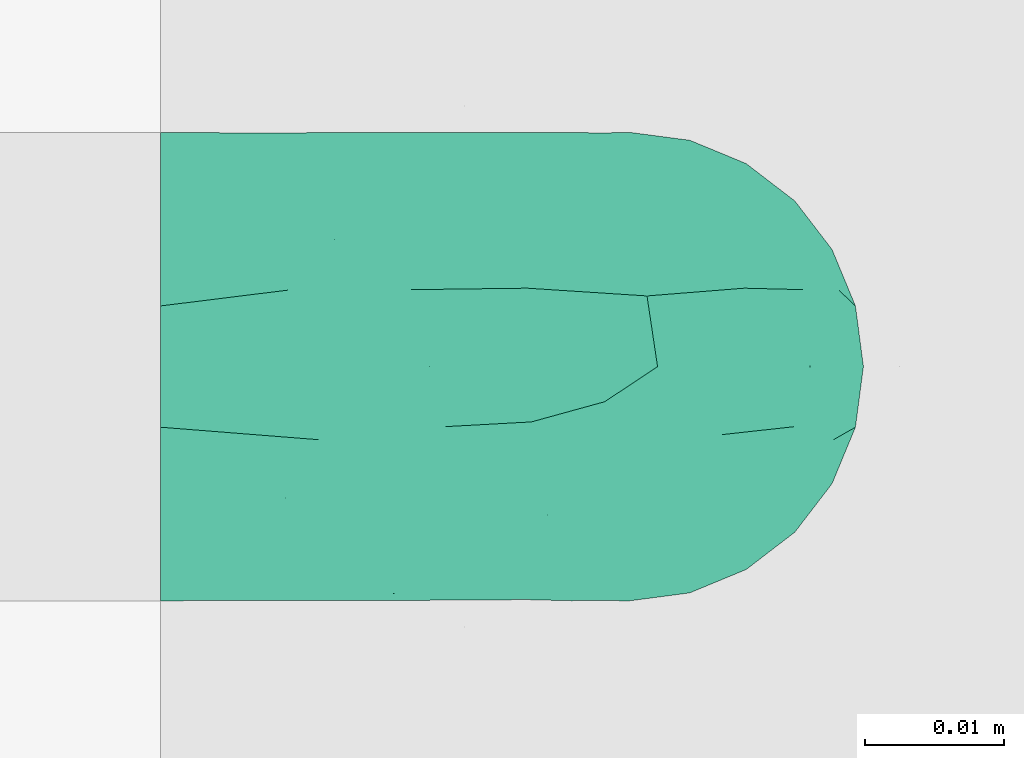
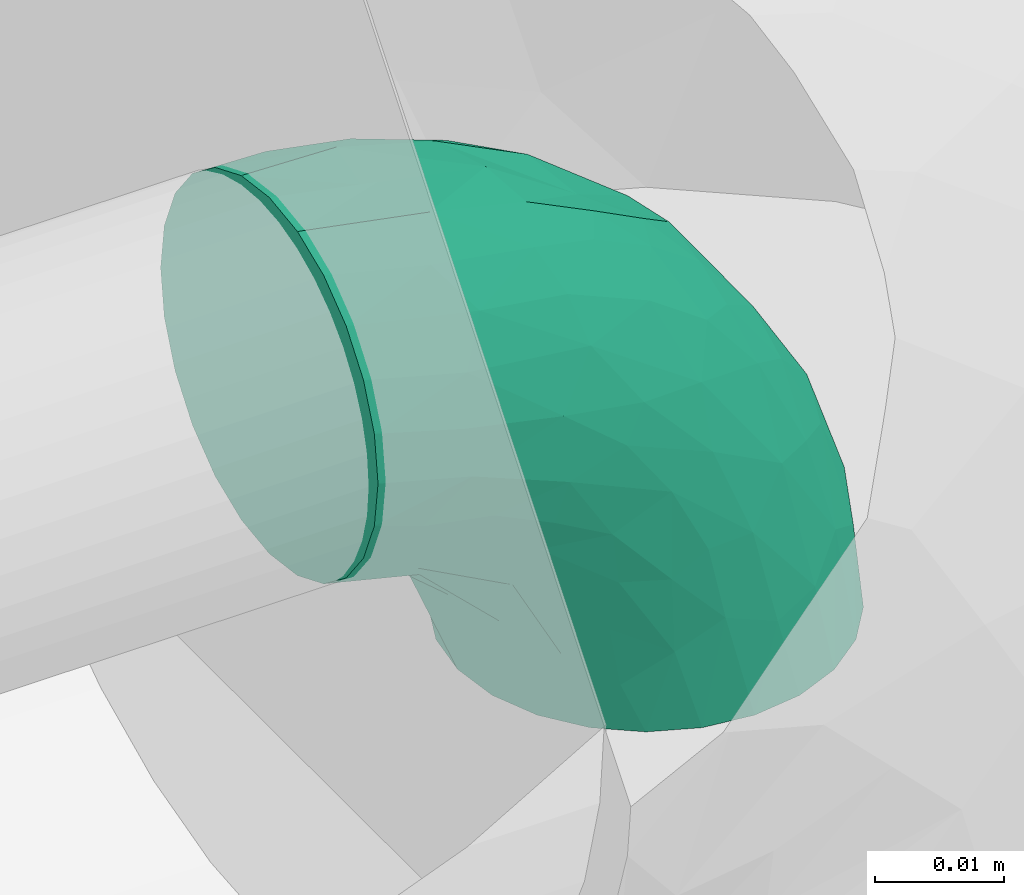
# One storey, part 3 of 4: 1 flow fitting.
"""IFC2X3 building model written with IfcOpenShell, lengths in millimetres."""

from ifc_helpers import new_model, entity, si_unit, converted_unit, derived_unit, direction, frame, origin_with_axes, place, context, subcontext, project, spatial, open_shell, surface_model, source, transform, mapped, type_object, element, save


model = new_model("IFC2X3")

# Units and contexts
model_context = context("Model", 3, precision=0.01, world=frame((0.0, 4.29681676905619e-09, 0.0)), true_north=direction((4.01073788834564e-13, 1.0)))
plan_context = context("Plan", 3, precision=0.01, world=frame((0.0, 4.29681676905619e-09, 0.0)), true_north=direction((4.01073788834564e-13, 1.0)))
body_context = subcontext(model_context, "Body", "Model", "MODEL_VIEW")
ifc_project = project(units=[converted_unit("PLANEANGLEUNIT", "DEGREE", entity("IfcPositiveLengthMeasure", 0.0174532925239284), si_unit("PLANEANGLEUNIT", "RADIAN"), dimensions=[0, 0, 0, 0, 0, 0, 0]), si_unit("AREAUNIT", "SQUARE_METRE"), si_unit("LENGTHUNIT", "METRE", prefix="MILLI"), si_unit("MASSUNIT", "GRAM", prefix="KILO"), si_unit("POWERUNIT", "WATT"), si_unit("PRESSUREUNIT", "PASCAL"), si_unit("FORCEUNIT", "NEWTON", prefix="KILO"), si_unit("ELECTRICVOLTAGEUNIT", "VOLT"), si_unit("ELECTRICCURRENTUNIT", "AMPERE"), si_unit("THERMODYNAMICTEMPERATUREUNIT", "DEGREE_CELSIUS"), si_unit("TIMEUNIT", "SECOND"), si_unit("VOLUMEUNIT", "CUBIC_METRE"), derived_unit("LINEARVELOCITYUNIT", [(si_unit("LENGTHUNIT", "METRE"), 1), (si_unit("TIMEUNIT", "SECOND"), -1)]), derived_unit("VOLUMETRICFLOWRATEUNIT", [(si_unit("VOLUMEUNIT", "CUBIC_METRE"), 1), (si_unit("TIMEUNIT", "SECOND"), -1)]), derived_unit("THERMALTRANSMITTANCEUNIT", [(si_unit("POWERUNIT", "WATT"), 1), (si_unit("THERMODYNAMICTEMPERATUREUNIT", "KELVIN"), -1), (si_unit("AREAUNIT", "SQUARE_METRE"), -1)]), derived_unit("SOUNDPRESSUREUNIT", [(si_unit("PRESSUREUNIT", "PASCAL"), 1)])], contexts=[model_context, plan_context])

# Site, building, storey
site_placement = place(None, frame((0.0, -4.29681676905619e-09, 0.0), z_axis=(0.0, 0.0, 1.0), x_axis=(1.0, 0.0, 0.0)))
site = spatial("IfcSite", under=ifc_project, at=site_placement, Name="ENGM", CompositionType="ELEMENT")
building_placement = place(site_placement, frame((0.0, 4.29681676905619e-09, 0.0), z_axis=(0.0, 0.0, 1.0), x_axis=(1.0, 0.0, 0.0)))
building = spatial("IfcBuilding", under=site, at=building_placement, Name="TI", CompositionType="ELEMENT")
storey_placement = place(building_placement, frame((0.0, 0.0, 205200.0), z_axis=(0.0, 0.0, 1.0), x_axis=(1.0, 0.0, 0.0)))
storey = spatial("IfcBuildingStorey", under=building, at=storey_placement, Name="Nivå D + 1,2 m", CompositionType="ELEMENT", Elevation=205200.0)

# Flow fitting
pipe_fitting_type = type_object("IfcPipeFittingType", Name="magi_pipe_fe_elbow_short_001", PredefinedType="BEND")
shared_shape = source(origin_with_axes(), body_context, "Body", "SurfaceModel", [
    surface_model("IfcShellBasedSurfaceModel", [(-33.8, 4.37404, -16.32415), (-33.8, 0.0, -16.9), (-33.8, 11.9501, -11.9501), (-33.8, 8.45, -14.63583), (-33.8, 16.32415, -4.37404), (-33.8, 14.63583, -8.45), (-33.8, -14.63583, -8.45), (-33.8, -16.32415, -4.37404), (-33.8, -8.45, 14.63583), (-33.8, -11.9501, -11.9501), (-33.8, -8.45, -14.63583), (-33.8, -4.37404, -16.32415), (-33.8, -16.9, 0.0), (-33.8, -16.32415, 4.37404), (-33.8, 11.9501, 11.9501), (-33.8, 14.63583, 8.45), (-33.8, 16.32415, 4.37404), (-33.8, 4.37404, 16.32415), (-33.8, 8.45, 14.63583), (-33.8, -14.63583, 8.45), (-33.8, -11.9501, 11.9501), (-33.8, -4.37404, 16.32415), (-33.8, 0.0, 16.9), (-33.8, 16.9, 0.0), (-11.9501, 33.8, -11.9501), (0.0, 33.8, -16.9), (-4.37404, 33.8, -16.32415), (-8.45, 33.8, -14.63583), (-14.63583, 33.8, -8.45), (-16.32415, 33.8, -4.37404), (14.63583, 33.8, -8.45), (8.45, 33.8, 14.63583), (16.32415, 33.8, -4.37404), (8.45, 33.8, -14.63583), (11.9501, 33.8, -11.9501), (4.37404, 33.8, -16.32415), (16.32415, 33.8, 4.37404), (16.9, 33.8, 0.0), (-11.9501, 33.8, 11.9501), (-16.32415, 33.8, 4.37404), (-14.63583, 33.8, 8.45), (-8.45, 33.8, 14.63583), (-4.37404, 33.8, 16.32415), (11.9501, 33.8, 11.9501), (14.63583, 33.8, 8.45), (0.0, 33.8, 16.9), (4.37404, 33.8, 16.32415), (-16.9, 33.8, 0.0), (-24.79389, -13.12945, 9.48721), (-22.19287, -9.75018, 12.59315), (-24.09897, -14.97035, 0.0), (-14.93934, -10.76256, 8.5297), (-22.46095, -14.75051, 5.27077), (14.75051, 22.46094, 5.27077), (11.9251, 13.23888, 4.33236), (13.04069, 14.39795, 0.0), (7.71387, 13.68847, 11.55891), (9.75018, 22.19287, 12.59315), (4.10169, 13.0571, 14.04018), (-24.84007, -6.39063, 15.2048), (-25.81779, -2.23879, 16.61097), (-23.66549, 2.59054, 16.87119), (-26.50418, 14.06512, 11.08152), (-24.21253, 17.66365, 7.72657), (-29.58514, 15.86957, 7.00283), (-6.17382, -7.5455, 0.0), (-13.23888, -11.9251, 4.33236), (-14.39795, -13.04069, 0.0), (-17.81434, 18.87373, 11.97104), (-6.30846, 29.15138, 15.82987), (-2.31622, 25.28002, 16.85849), (-29.23923, 10.23435, 13.77053), (-1.45439, -2.85688, 7.61475), (-0.28326, 0.34872, 10.09509), (-5.74484, -4.04709, 10.4122), (-4.41137, 11.31918, 16.59407), (-8.39727, 3.10034, 15.7812), (-1.72649, 9.1306, 15.53089), (-17.39909, 24.75344, 7.64977), (-26.19233, 20.0512, 0.0), (-28.14518, 17.29657, 4.25857), (-26.05147, 6.6281, 15.96447), (-5.87354, 16.61944, 16.86968), (-12.51807, 12.51807, 16.48937), (-10.06312, 7.38516, 16.81295), (-3.01882, 3.01882, 13.81718), (-13.0571, -4.10169, 14.04018), (-16.82553, -0.15166, 16.38038), (10.76256, 14.93934, 8.5297), (13.12945, 24.79389, 9.48721), (6.39063, 24.84007, 15.2048), (2.23879, 25.81779, 16.61097), (-13.68847, -7.71387, 11.55891), (14.97035, 24.09897, 0.0), (-7.30894, 22.89991, 16.09489), (-10.67958, 26.17414, 14.008), (-12.78295, 18.26924, 15.06066), (-13.88562, 22.45231, 12.93244), (-18.04944, 15.16501, 14.04434), (-23.11658, 20.08178, 4.02986), (-21.84989, 21.84989, 0.0), (-18.55817, 25.48277, 3.93065), (-13.95142, 26.94732, 11.03289), (-18.57098, 7.23906, 16.59756), (-16.58335, 4.14122, 16.89279), (-17.96666, 11.46709, 15.63151), (-9.84453, 17.54304, 16.18938), (0.15166, 16.82553, 16.38038), (-23.27207, 11.47201, 14.23154), (3.84842, 5.86994, 10.70473), (-8.0212, -7.54413, 7.93275), (1.00345, -2.19508, 4.57414), (5.13203, 3.01004, 5.90201), (5.24161, 1.7543, 2.53265), (8.70457, 7.04947, 3.99182), (-20.0512, 26.19233, 0.0), (8.4852, 8.76699, 7.09296), (-4.55488, -6.72064, 4.90681), (2.05031, -2.05031, 0.0), (7.5455, 6.17382, 0.0), (-26.75399, 2.1369, -16.845), (-14.61995, 24.73803, -11.27736), (-28.45274, -13.45335, -9.81895), (-26.00469, 6.63555, -15.96645), (-23.06726, 20.04573, -4.26202), (-13.80647, -4.26506, -14.17873), (-14.67501, -0.21081, -16.07388), (-6.7902, -0.2828, -13.8478), (-24.53586, 11.08096, -14.13417), (-26.72048, 14.00837, -11.05776), (10.0967, 24.44989, -12.75976), (5.83237, 21.40218, -15.03047), (6.66249, 28.54238, -15.38093), (-20.38182, 15.48705, -12.74596), (12.53268, 21.23441, -9.15363), (12.54494, 15.67504, -5.54878), (9.7522, 12.89279, -8.66343), (-15.65186, 19.64213, -13.01327), (-12.03528, 20.66498, -14.67665), (-15.61907, 15.61906, -14.83879), (-25.56551, -15.26206, 0.0), (-24.65452, -15.12934, -5.50955), (13.45335, 28.45274, -9.81895), (15.12934, 24.65452, -5.50955), (-7.35442, -8.31014, -5.65563), (-15.67504, -12.54494, -5.54878), (-24.44989, -10.0967, -12.75976), (0.16522, 0.41303, -9.71728), (-5.70658, -5.33066, -8.89288), (-5.13869, -2.37198, -11.53565), (-21.23441, -12.53268, -9.15363), (0.71146, 7.93863, -14.09382), (0.21081, 14.67501, -16.07388), (3.49291, 14.42772, -14.76381), (-24.89911, -2.13088, -16.591), (-28.54238, -6.66249, -15.38093), (-18.44386, -7.71663, -13.26957), (2.13088, 24.89911, -16.591), (-28.64342, 17.44413, -2.89318), (1.70017, -1.28722, -5.09504), (-16.57067, 26.81947, -7.36596), (-17.69055, 27.4263, -3.76405), (-12.89279, -9.7522, -8.66343), (-5.96611, 5.96611, -15.95814), (-20.53709, 20.09345, -8.28985), (-2.1369, 26.75399, -16.845), (-6.89872, 24.58781, -16.02578), (-10.60739, 26.53157, -13.98044), (-21.40218, -5.83237, -15.03047), (2.93192, 5.89627, -11.55917), (6.89393, 12.61842, -11.82233), (5.58056, 5.95325, -8.79455), (-3.99512, 18.61798, -16.89635), (8.31014, 7.35442, -5.65563), (-9.1383, 9.86148, -16.89041), (-9.99983, 16.02119, -16.39699), (-16.68576, 9.78031, -16.34199), (-27.01915, 16.61158, -7.12979), (15.26206, 25.56551, 0.0), (-18.61798, 3.99512, -16.89635), (-19.37495, 27.82495, 0.0), (-12.61842, -6.89393, -11.82233), (-18.84705, 19.14018, -10.96545)], [open_shell([[[0, 1, 2]], [[3, 0, 2]], [[4, 5, 2]], [[6, 2, 1]], [[2, 7, 8]], [[9, 6, 10]], [[1, 11, 10]], [[10, 6, 1]], [[2, 6, 7]], [[12, 13, 7]], [[4, 2, 14]], [[4, 15, 16]], [[4, 14, 15]], [[17, 18, 14]], [[14, 2, 8]], [[17, 14, 8]], [[19, 20, 13]], [[20, 7, 13]], [[21, 22, 8]], [[20, 8, 7]], [[8, 22, 17]], [[4, 16, 23]], [[24, 25, 26]], [[24, 26, 27]], [[24, 28, 29]], [[25, 24, 30]], [[31, 32, 24]], [[33, 30, 34]], [[33, 35, 25]], [[25, 30, 33]], [[32, 30, 24]], [[32, 36, 37]], [[38, 24, 29]], [[39, 40, 29]], [[40, 38, 29]], [[38, 41, 42]], [[38, 31, 24]], [[31, 38, 42]], [[36, 43, 44]], [[36, 32, 43]], [[31, 45, 46]], [[32, 31, 43]], [[42, 45, 31]], [[39, 29, 47]], [[20, 48, 49]], [[13, 12, 50]], [[51, 48, 52]], [[53, 54, 55]], [[48, 20, 19]], [[13, 52, 19]], [[56, 57, 58]], [[49, 8, 20]], [[49, 59, 8]], [[22, 60, 61]], [[62, 63, 64]], [[65, 66, 67]], [[57, 43, 31]], [[62, 68, 63]], [[42, 69, 70]], [[18, 71, 14]], [[21, 60, 22]], [[72, 73, 74]], [[75, 76, 77]], [[14, 62, 15]], [[40, 39, 78]], [[79, 23, 80]], [[64, 16, 15]], [[22, 61, 17]], [[17, 81, 18]], [[82, 83, 84]], [[74, 85, 86]], [[59, 86, 87]], [[88, 89, 57]], [[90, 31, 46]], [[44, 53, 36]], [[46, 45, 91]], [[54, 53, 88]], [[44, 89, 53]], [[92, 86, 49]], [[89, 44, 43]], [[8, 59, 21]], [[53, 55, 93]], [[93, 36, 53]], [[66, 52, 67]], [[94, 82, 70]], [[95, 96, 94]], [[97, 98, 96]], [[79, 99, 100]], [[41, 38, 95]], [[101, 100, 99]], [[68, 78, 63]], [[42, 41, 69]], [[23, 16, 80]], [[95, 94, 69]], [[78, 101, 99]], [[38, 102, 95]], [[70, 45, 42]], [[97, 95, 102]], [[13, 50, 52]], [[90, 57, 31]], [[57, 90, 58]], [[81, 17, 61]], [[103, 104, 84]], [[105, 81, 103]], [[38, 40, 102]], [[106, 96, 83]], [[94, 106, 82]], [[91, 70, 107]], [[71, 62, 14]], [[62, 108, 98]], [[86, 59, 49]], [[67, 52, 50]], [[60, 59, 87]], [[92, 49, 51]], [[86, 85, 76]], [[91, 90, 46]], [[37, 36, 93]], [[107, 77, 58]], [[107, 58, 90]], [[58, 85, 109]], [[110, 74, 92]], [[72, 74, 110]], [[66, 51, 52]], [[72, 111, 112]], [[113, 114, 112]], [[56, 88, 57]], [[52, 48, 19]], [[49, 48, 51]], [[57, 89, 43]], [[53, 89, 88]], [[103, 81, 61]], [[71, 81, 108]], [[16, 64, 80]], [[63, 78, 99]], [[47, 115, 101]], [[101, 115, 100]], [[40, 78, 102]], [[68, 102, 78]], [[97, 96, 95]], [[105, 98, 108]], [[103, 84, 83]], [[107, 70, 82]], [[76, 84, 87]], [[82, 84, 75]], [[70, 91, 45]], [[90, 91, 107]], [[59, 60, 21]], [[61, 60, 87]], [[73, 85, 74]], [[109, 112, 116]], [[103, 61, 104]], [[105, 103, 83]], [[96, 105, 83]], [[81, 105, 108]], [[96, 98, 105]], [[62, 98, 68]], [[61, 87, 104]], [[87, 84, 104]], [[86, 76, 87]], [[77, 76, 85]], [[58, 77, 85]], [[75, 77, 107]], [[82, 75, 107]], [[76, 75, 84]], [[81, 71, 18]], [[62, 71, 108]], [[95, 69, 41]], [[70, 69, 94]], [[62, 64, 15]], [[80, 63, 99]], [[63, 80, 64]], [[80, 99, 79]], [[66, 65, 117]], [[110, 66, 117]], [[112, 114, 116]], [[118, 117, 65]], [[110, 92, 51]], [[112, 111, 113]], [[119, 55, 54]], [[74, 86, 92]], [[58, 109, 56]], [[116, 56, 109]], [[66, 110, 51]], [[72, 110, 117]], [[111, 72, 117]], [[73, 112, 109]], [[117, 118, 111]], [[113, 111, 118]], [[118, 119, 113]], [[114, 119, 54]], [[119, 114, 113]], [[116, 54, 88]], [[54, 116, 114]], [[116, 88, 56]], [[112, 73, 72]], [[85, 73, 109]], [[78, 39, 101]], [[47, 101, 39]], [[102, 68, 97]], [[97, 68, 98]], [[82, 106, 83]], [[94, 96, 106]], [[0, 120, 1]], [[28, 24, 121]], [[9, 122, 6]], [[3, 123, 0]], [[100, 124, 79]], [[125, 126, 127]], [[128, 2, 129]], [[130, 131, 132]], [[128, 129, 133]], [[134, 135, 136]], [[137, 138, 139]], [[128, 3, 2]], [[67, 140, 141]], [[134, 142, 143]], [[141, 7, 6]], [[144, 65, 145]], [[146, 9, 10]], [[147, 148, 149]], [[145, 141, 150]], [[151, 152, 153]], [[154, 11, 1]], [[10, 155, 146]], [[150, 146, 156]], [[155, 10, 11]], [[143, 135, 134]], [[35, 157, 25]], [[23, 79, 158]], [[148, 159, 144]], [[160, 161, 29]], [[145, 162, 144]], [[163, 152, 151]], [[29, 28, 160]], [[121, 164, 160]], [[33, 34, 130]], [[25, 165, 26]], [[26, 165, 166]], [[142, 34, 30]], [[24, 27, 167]], [[124, 161, 164]], [[157, 35, 132]], [[155, 154, 168]], [[123, 3, 128]], [[169, 170, 171]], [[172, 157, 152]], [[26, 166, 27]], [[132, 35, 33]], [[142, 130, 34]], [[168, 154, 126]], [[136, 135, 173]], [[133, 137, 139]], [[2, 5, 129]], [[170, 131, 130]], [[30, 32, 143]], [[172, 174, 175]], [[176, 123, 128]], [[158, 177, 4]], [[135, 55, 119]], [[167, 27, 166]], [[175, 166, 172]], [[137, 167, 138]], [[122, 141, 6]], [[140, 12, 7]], [[32, 37, 178]], [[170, 130, 134]], [[152, 157, 131]], [[165, 157, 172]], [[153, 170, 151]], [[152, 163, 174]], [[168, 125, 156]], [[122, 146, 150]], [[120, 154, 1]], [[179, 174, 126]], [[179, 126, 154]], [[126, 163, 127]], [[162, 145, 150]], [[140, 7, 141]], [[32, 178, 143]], [[55, 143, 178]], [[177, 129, 5]], [[128, 133, 139]], [[176, 128, 139]], [[120, 123, 179]], [[121, 160, 28]], [[161, 100, 180]], [[166, 175, 138]], [[121, 24, 167]], [[161, 47, 29]], [[79, 124, 158]], [[124, 164, 177]], [[161, 124, 100]], [[136, 171, 170]], [[127, 163, 151]], [[147, 171, 159]], [[148, 144, 162]], [[127, 151, 169]], [[127, 181, 125]], [[129, 177, 164]], [[5, 4, 177]], [[159, 65, 144]], [[67, 141, 145]], [[143, 55, 135]], [[135, 119, 173]], [[123, 120, 0]], [[154, 120, 179]], [[157, 165, 25]], [[166, 165, 172]], [[172, 152, 174]], [[176, 139, 175]], [[126, 174, 163]], [[176, 174, 179]], [[174, 176, 175]], [[123, 176, 179]], [[150, 181, 162]], [[127, 149, 181]], [[181, 148, 162]], [[159, 148, 147]], [[171, 136, 173]], [[170, 134, 136]], [[159, 171, 173]], [[171, 147, 169]], [[169, 147, 149]], [[151, 170, 169]], [[164, 182, 129]], [[182, 121, 137]], [[181, 149, 148]], [[169, 149, 127]], [[182, 137, 133]], [[167, 137, 121]], [[166, 138, 167]], [[175, 139, 138]], [[129, 182, 133]], [[121, 182, 164]], [[161, 160, 164]], [[47, 161, 180]], [[177, 158, 124]], [[23, 158, 4]], [[130, 132, 33]], [[157, 132, 131]], [[143, 142, 30]], [[130, 142, 134]], [[154, 155, 11]], [[146, 155, 168]], [[146, 122, 9]], [[141, 122, 150]], [[152, 131, 153]], [[159, 119, 118]], [[67, 145, 65]], [[170, 153, 131]], [[119, 159, 173]], [[159, 118, 65]], [[156, 125, 181]], [[126, 125, 168]], [[150, 156, 181]], [[168, 156, 146]]])]),
])
flow_fitting_placement = place(storey_placement, frame((607824.03193, 699355.84973, 4953.16299000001), z_axis=(0.0, -1.0, 0.0), x_axis=(0.0, 0.0, 1.0)))
element("IfcFlowFitting", 1, at=flow_fitting_placement, inside=storey, type_object=pipe_fitting_type, Name="magi_pipe_fe_elbow_short_001", context=body_context, shape_type="MappedRepresentation", body=[
    mapped(shared_shape, transform((0.0, 0.0, 0.0), scale=1.0)),
])

save(model, "model.ifc")
